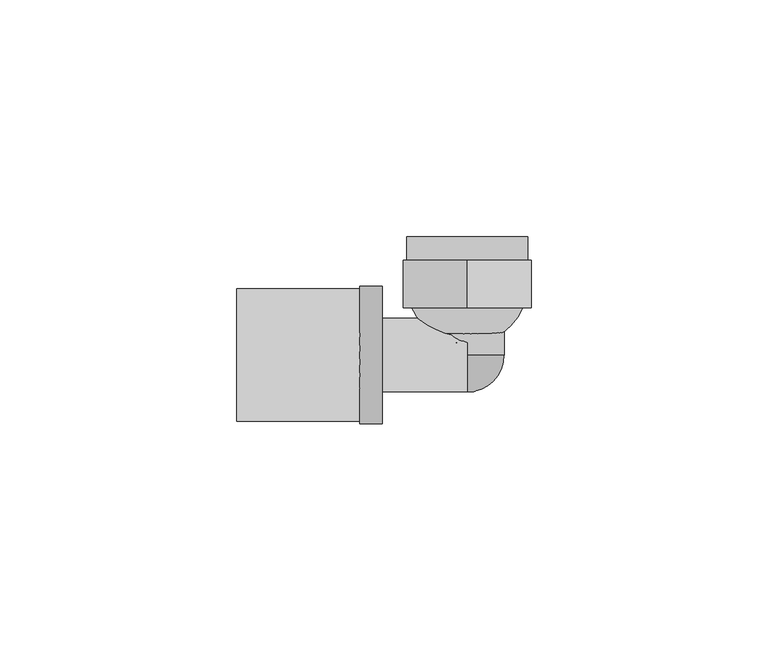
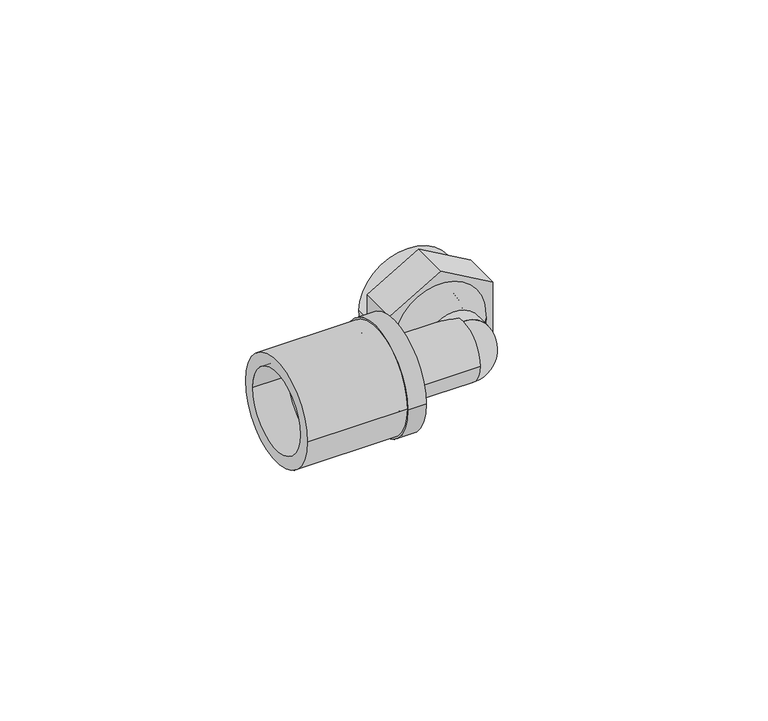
"""IFC4 building model written with IfcOpenShell, lengths in millimetres: pipe fitting geometry, FASTLOC_Elbow with female thread LX : FSL A internal CZ."""

from ifc_helpers import new_model, si_unit, point, frame, origin, origin_2d, place, context, project, spatial, polyline, circle_curve, ellipse_curve, trimmed, segment, composite_curve, outline, extrude, source, transform, mapped, element, save
from ifc_brep_helpers import plane_surface, cylinder_surface, revolved_surface, advanced_brep


def pipe_fitting_b34869ee(model_context):
    return source(origin(), model_context, "Body", "SolidModel", [
        extrude(outline(composite_curve([segment(trimmed(circle_curve(origin_2d(), 14.0), [point((14.0, 0.0))], [point((-14.0, 0.0))], False, "CARTESIAN"), True, "CONTINUOUS"), segment(trimmed(circle_curve(origin_2d(), 14.0), [point((-14.0, 0.0))], [point((14.0, 0.0))], False, "CARTESIAN"), True, "CONTINUOUS")], self_intersect=False), holes=[composite_curve([segment(trimmed(circle_curve(origin_2d(), 10.7), [point((10.7, 0.0))], [point((-10.7, 0.0))], True, "CARTESIAN"), True, "CONTINUOUS"), segment(trimmed(circle_curve(origin_2d(), 10.7), [point((-10.7, 0.0))], [point((10.7, 0.0))], True, "CARTESIAN"), True, "CONTINUOUS")], self_intersect=False)]), frame((-48.7, 0.0, 0.0), z_axis=(1.0, 0.0, 0.0), x_axis=(0.0, 1.0, 0.0)), (0.0, 0.0, 1.0), 26.0),
        advanced_brep(
        [(-22.7, -14.5, 0.0), (-22.7, 14.5, 0.0), (-18.0, 14.5, 0.0), (-18.0, -14.5, 0.0), (-39.7, -11.85, 0.0), (-39.7, 11.85, 0.0), (-22.7, 11.85, 0.0), (-22.7, -11.85, 0.0), (-18.0, -10.15, 0.0), (-18.0, 10.15, 0.0), (-39.7, 10.15, 0.0), (-39.7, -10.15, 0.0)],
        [
            (0, 1, circle_curve(frame((-22.7, 0.0, 0.0), z_axis=(1.0, 0.0, 0.0), x_axis=(0.0, 1.0, 0.0)), 14.5)),
            (1, 2),
            (2, 3, circle_curve(frame((-18.0, 0.0, 0.0), z_axis=(-1.0, 0.0, 0.0), x_axis=(0.0, 1.0, 0.0)), 14.5)),
            (3, 0),
            (4, 5, circle_curve(frame((-39.7, 0.0, 0.0), z_axis=(1.0, 0.0, 0.0), x_axis=(0.0, 1.0, 0.0)), 11.85)),
            (5, 6),
            (6, 7, circle_curve(frame((-22.7, 0.0, 0.0), z_axis=(-1.0, 0.0, 0.0), x_axis=(0.0, 1.0, 0.0)), 11.85)),
            (7, 4),
            (8, 9, circle_curve(frame((-18.0, 0.0, 0.0), z_axis=(1.0, 0.0, 0.0), x_axis=(0.0, 1.0, 0.0)), 10.15)),
            (9, 10),
            (10, 11, circle_curve(frame((-39.7, 0.0, 0.0), z_axis=(-1.0, 0.0, 0.0), x_axis=(0.0, 1.0, 0.0)), 10.15)),
            (11, 8),
            (1, 0, circle_curve(frame((-22.7, 0.0, 0.0), z_axis=(1.0, 0.0, 0.0), x_axis=(0.0, -1.0, 0.0)), 14.5)),
            (3, 2, circle_curve(frame((-18.0, 0.0, 0.0), z_axis=(-1.0, 0.0, 0.0), x_axis=(0.0, -1.0, 0.0)), 14.5)),
            (6, 7, circle_curve(frame((-22.7, 0.0, 0.0), z_axis=(1.0, 0.0, 0.0), x_axis=(0.0, -1.0, 0.0)), 11.85)),
            (5, 4, circle_curve(frame((-39.7, 0.0, 0.0), z_axis=(1.0, 0.0, 0.0), x_axis=(0.0, -1.0, 0.0)), 11.85)),
            (10, 11, circle_curve(frame((-39.7, 0.0, 0.0), z_axis=(1.0, 0.0, 0.0), x_axis=(0.0, -1.0, 0.0)), 10.15)),
            (9, 8, circle_curve(frame((-18.0, 0.0, 0.0), z_axis=(1.0, 0.0, 0.0), x_axis=(0.0, -1.0, 0.0)), 10.15)),
        ],
        [
            cylinder_surface(frame((-18.0, 0.0, 0.0), z_axis=(-1.0, 0.0, 0.0), x_axis=(0.0, 1.0, 0.0)), 14.5),
            cylinder_surface(frame((-18.0, 0.0, 0.0), z_axis=(-1.0, 0.0, 0.0), x_axis=(0.0, 1.0, 0.0)), 11.85),
            revolved_surface(polyline([(-39.7, 10.15, 0.0), (-18.0, 10.15, 0.0)]), (-18.0, 0.0, 0.0), (-1.0, 0.0, 0.0)),
            cylinder_surface(frame((-18.0, 0.0, 0.0), z_axis=(-1.0, 0.0, 0.0), x_axis=(0.0, -1.0, 0.0)), 14.5),
            plane_surface(frame((-22.7, 0.0, 0.0), z_axis=(-1.0, 0.0, 0.0), x_axis=(0.0, -1.0, 0.0))),
            cylinder_surface(frame((-18.0, 0.0, 0.0), z_axis=(-1.0, 0.0, 0.0), x_axis=(0.0, -1.0, 0.0)), 11.85),
            plane_surface(frame((-39.7, 0.0, 0.0), z_axis=(-1.0, 0.0, 0.0), x_axis=(0.0, -1.0, 0.0))),
            revolved_surface(polyline([(-39.7, -10.15, 0.0), (-18.0, -10.15, 0.0)]), (-18.0, 0.0, 0.0), (-1.0, 0.0, 0.0)),
            plane_surface(frame((-18.0, 0.0, 0.0), z_axis=(1.0, 0.0, 0.0), x_axis=(0.0, -1.0, 0.0))),
        ],
        [
            (0, [[1, 2, 3, 4]]),
            (1, [[5, 6, 7, 8]]),
            (2, [[9, 10, 11, 12]]),
            (3, [[13, -4, 14, -2]]),
            (4, [[-13, -1], [15, -7]]),
            (5, [[16, -8, -15, -6]]),
            (6, [[-16, -5], [17, -11]]),
            (7, [[18, -12, -17, -10]]),
            (8, [[-14, -3], [-18, -9]]),
        ],
    ),
        advanced_brep(
        [(0.5, 2.2598077, 0.0), (-0.5, 2.2598077, 0.0), (-12.75, 15.0, 0.0), (12.75, 15.0, 0.0), (0.5, 7.5166852, 0.0), (-0.5, 7.5166852, 0.0), (7.5, 15.0, 0.0), (-7.5, 15.0, 0.0), (7.5, 25.0, 0.0), (-7.5, 25.0, 0.0), (-12.75, 25.0, 0.0), (12.75, 25.0, 0.0)],
        [
            (0, 1, circle_curve(frame((0.0, 2.2598077, 0.0), z_axis=(0.0, 1.0, 0.0), x_axis=(-1.0, 0.0, 0.0)), 0.5)),
            (1, 2, circle_curve(frame((0.0, 15.0, 0.0), z_axis=(0.0, 0.0, -1.0), x_axis=(0.0, 1.0, 0.0)), 12.75)),
            (2, 3, circle_curve(frame((0.0, 15.0, 0.0), z_axis=(0.0, -1.0, 0.0), x_axis=(-1.0, 0.0, 0.0)), 12.75)),
            (3, 0, circle_curve(frame((0.0, 15.0, 0.0), z_axis=(0.0, 0.0, -1.0), x_axis=(0.0, 1.0, 0.0)), 12.75)),
            (4, 5, circle_curve(frame((0.0, 7.5166852, 0.0), z_axis=(0.0, 1.0, 0.0), x_axis=(-1.0, 0.0, 0.0)), 0.5)),
            (5, 1),
            (0, 4),
            (6, 7, circle_curve(frame((0.0, 15.0, 0.0), z_axis=(0.0, 1.0, 0.0), x_axis=(-1.0, 0.0, 0.0)), 7.5)),
            (7, 5, circle_curve(frame((0.0, 15.0, 0.0), z_axis=(0.0, 0.0, 1.0), x_axis=(0.0, 1.0, 0.0)), 7.5)),
            (4, 6, circle_curve(frame((0.0, 15.0, 0.0), z_axis=(0.0, 0.0, 1.0), x_axis=(0.0, 1.0, 0.0)), 7.5)),
            (8, 9, circle_curve(frame((0.0, 25.0, 0.0), z_axis=(0.0, 1.0, 0.0), x_axis=(-1.0, 0.0, 0.0)), 7.5)),
            (9, 7),
            (6, 8),
            (2, 10),
            (10, 11, circle_curve(frame((0.0, 25.0, 0.0), z_axis=(0.0, -1.0, 0.0), x_axis=(-1.0, 0.0, 0.0)), 12.75)),
            (11, 3),
            (1, 0, circle_curve(frame((0.0, 2.2598077, 0.0), z_axis=(0.0, 1.0, 0.0), x_axis=(1.0, 0.0, 0.0)), 0.5)),
            (3, 2, circle_curve(frame((0.0, 15.0, 0.0), z_axis=(0.0, -1.0, 0.0), x_axis=(1.0, 0.0, 0.0)), 12.75)),
            (5, 4, circle_curve(frame((0.0, 7.5166852, 0.0), z_axis=(0.0, 1.0, 0.0), x_axis=(1.0, 0.0, 0.0)), 0.5)),
            (7, 6, circle_curve(frame((0.0, 15.0, 0.0), z_axis=(0.0, 1.0, 0.0), x_axis=(1.0, 0.0, 0.0)), 7.5)),
            (9, 8, circle_curve(frame((0.0, 25.0, 0.0), z_axis=(0.0, 1.0, 0.0), x_axis=(1.0, 0.0, 0.0)), 7.5)),
            (10, 11, circle_curve(frame((0.0, 25.0, 0.0), z_axis=(0.0, 1.0, 0.0), x_axis=(1.0, 0.0, 0.0)), 12.75)),
        ],
        [
            revolved_surface(trimmed(ellipse_curve(frame((0.0, 15.0, 0.0), z_axis=(0.0, 0.0, 1.0), x_axis=(0.0, 1.0, 0.0)), 12.75, 12.75), [point((-12.75, 15.0, 0.0))], [point((-0.5, 2.2598077, 0.0))], True, "CARTESIAN"), (0.0, 10.0, 0.0), (0.0, -1.0, 0.0)),
            revolved_surface(polyline([(-0.5, 2.2598076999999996, 0.0), (-0.5, 7.5166852, 0.0)]), (0.0, 10.0, 0.0), (0.0, -1.0, 0.0)),
            revolved_surface(trimmed(ellipse_curve(frame((0.0, 15.0, 0.0), z_axis=(0.0, 0.0, -1.0), x_axis=(0.0, 1.0, 0.0)), 7.5, 7.5), [point((-0.5, 7.5166852, 0.0))], [point((-7.5, 15.0, 0.0))], True, "CARTESIAN"), (0.0, 10.0, 0.0), (0.0, -1.0, 0.0)),
            revolved_surface(polyline([(-7.5, 15.0, 0.0), (-7.5, 25.0, 0.0)]), (0.0, 10.0, 0.0), (0.0, -1.0, 0.0)),
            cylinder_surface(frame((0.0, 10.0, 0.0), z_axis=(0.0, -1.0, 0.0), x_axis=(-1.0, 0.0, 0.0)), 12.75),
            revolved_surface(trimmed(ellipse_curve(frame((0.0, 15.0, 0.0), z_axis=(0.0, 0.0, -1.0), x_axis=(0.0, 1.0, 0.0)), 12.75, 12.75), [point((12.75, 15.0, 0.0))], [point((0.5, 2.2598077, 0.0))], True, "CARTESIAN"), (0.0, 10.0, 0.0), (0.0, -1.0, 0.0)),
            revolved_surface(polyline([(0.5, 2.2598076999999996, 0.0), (0.5, 7.5166852, 0.0)]), (0.0, 10.0, 0.0), (0.0, -1.0, 0.0)),
            revolved_surface(trimmed(ellipse_curve(frame((0.0, 15.0, 0.0), z_axis=(0.0, 0.0, 1.0), x_axis=(0.0, 1.0, 0.0)), 7.5, 7.5), [point((0.5, 7.5166852, 0.0))], [point((7.5, 15.0, 0.0))], True, "CARTESIAN"), (0.0, 10.0, 0.0), (0.0, -1.0, 0.0)),
            revolved_surface(polyline([(7.5, 15.0, 0.0), (7.5, 25.0, 0.0)]), (0.0, 10.0, 0.0), (0.0, -1.0, 0.0)),
            plane_surface(frame((0.0, 25.0, 0.0), z_axis=(0.0, 1.0, 0.0), x_axis=(1.0, 0.0, 0.0))),
            cylinder_surface(frame((0.0, 10.0, 0.0), z_axis=(0.0, -1.0, 0.0), x_axis=(1.0, 0.0, 0.0)), 12.75),
        ],
        [
            (0, [[1, 2, 3, 4]]),
            (1, [[5, 6, -1, 7]]),
            (2, [[8, 9, -5, 10]]),
            (3, [[11, 12, -8, 13]]),
            (4, [[-3, 14, 15, 16]]),
            (5, [[17, -4, 18, -2]]),
            (6, [[19, -7, -17, -6]]),
            (7, [[20, -10, -19, -9]]),
            (8, [[21, -13, -20, -12]]),
            (9, [[22, -15], [-21, -11]]),
            (10, [[-18, -16, -22, -14]]),
        ],
    ),
        advanced_brep(
        [(-22.7, 7.75, 0.0), (-22.7, -7.75, 0.0), (-40.1, -7.75, 0.0), (-40.1, 7.75, 0.0), (-20.0, 8.8, 0.0), (-20.0, -8.8, 0.0), (-22.7, -8.8, 0.0), (-22.7, 8.8, 0.0), (0.0, 7.75, 0.0), (0.0, -7.75, 0.0), (-20.0, -7.75, 0.0), (-20.0, 7.75, 0.0), (-40.1, 5.75, 0.0), (-40.1, -5.75, 0.0), (0.0, -5.75, 0.0), (0.0, 5.75, 0.0)],
        [
            (0, 1, circle_curve(frame((-22.7, 0.0, 0.0), z_axis=(-1.0, 0.0, 0.0), x_axis=(0.0, -1.0, 0.0)), 7.75)),
            (1, 2),
            (2, 3, circle_curve(frame((-40.1, 0.0, 0.0), z_axis=(1.0, 0.0, 0.0), x_axis=(0.0, -1.0, 0.0)), 7.75)),
            (3, 0),
            (4, 5, circle_curve(frame((-20.0, 0.0, 0.0), z_axis=(-1.0, 0.0, 0.0), x_axis=(0.0, -1.0, 0.0)), 8.8)),
            (5, 6),
            (6, 7, circle_curve(frame((-22.7, 0.0, 0.0), z_axis=(1.0, 0.0, 0.0), x_axis=(0.0, -1.0, 0.0)), 8.8)),
            (7, 4),
            (8, 9, circle_curve(frame((0.0, 0.0, 0.0), z_axis=(-1.0, 0.0, 0.0), x_axis=(0.0, -1.0, 0.0)), 7.75)),
            (9, 10),
            (10, 11, circle_curve(frame((-20.0, 0.0, 0.0), z_axis=(1.0, 0.0, 0.0), x_axis=(0.0, -1.0, 0.0)), 7.75)),
            (11, 8),
            (12, 13, circle_curve(frame((-40.1, 0.0, 0.0), z_axis=(-1.0, 0.0, 0.0), x_axis=(0.0, -1.0, 0.0)), 5.75)),
            (13, 14),
            (14, 15, circle_curve(frame((0.0, 0.0, 0.0), z_axis=(1.0, 0.0, 0.0), x_axis=(0.0, -1.0, 0.0)), 5.75)),
            (15, 12),
            (2, 3, circle_curve(frame((-40.1, 0.0, 0.0), z_axis=(-1.0, 0.0, 0.0), x_axis=(0.0, 1.0, 0.0)), 7.75)),
            (12, 13, circle_curve(frame((-40.1, 0.0, 0.0), z_axis=(1.0, 0.0, 0.0), x_axis=(0.0, 1.0, 0.0)), 5.75)),
            (1, 0, circle_curve(frame((-22.7, 0.0, 0.0), z_axis=(-1.0, 0.0, 0.0), x_axis=(0.0, 1.0, 0.0)), 7.75)),
            (6, 7, circle_curve(frame((-22.7, 0.0, 0.0), z_axis=(-1.0, 0.0, 0.0), x_axis=(0.0, 1.0, 0.0)), 8.8)),
            (5, 4, circle_curve(frame((-20.0, 0.0, 0.0), z_axis=(-1.0, 0.0, 0.0), x_axis=(0.0, 1.0, 0.0)), 8.8)),
            (10, 11, circle_curve(frame((-20.0, 0.0, 0.0), z_axis=(-1.0, 0.0, 0.0), x_axis=(0.0, 1.0, 0.0)), 7.75)),
            (9, 8, circle_curve(frame((0.0, 0.0, 0.0), z_axis=(-1.0, 0.0, 0.0), x_axis=(0.0, 1.0, 0.0)), 7.75)),
            (14, 15, circle_curve(frame((0.0, 0.0, 0.0), z_axis=(-1.0, 0.0, 0.0), x_axis=(0.0, 1.0, 0.0)), 5.75)),
        ],
        [
            cylinder_surface(frame((0.0, 0.0, 0.0), z_axis=(1.0, 0.0, 0.0), x_axis=(0.0, -1.0, 0.0)), 7.75),
            cylinder_surface(frame((0.0, 0.0, 0.0), z_axis=(1.0, 0.0, 0.0), x_axis=(0.0, -1.0, 0.0)), 8.8),
            revolved_surface(polyline([(0.0, -5.75, 0.0), (-40.1, -5.75, 0.0)]), (0.0, 0.0, 0.0), (1.0, 0.0, 0.0)),
            plane_surface(frame((-40.1, 0.0, 0.0), z_axis=(-1.0, 0.0, 0.0), x_axis=(0.0, 1.0, 0.0))),
            cylinder_surface(frame((0.0, 0.0, 0.0), z_axis=(1.0, 0.0, 0.0), x_axis=(0.0, 1.0, 0.0)), 7.75),
            plane_surface(frame((-22.7, 0.0, 0.0), z_axis=(-1.0, 0.0, 0.0), x_axis=(0.0, 1.0, 0.0))),
            cylinder_surface(frame((0.0, 0.0, 0.0), z_axis=(1.0, 0.0, 0.0), x_axis=(0.0, 1.0, 0.0)), 8.8),
            plane_surface(frame((-20.0, 0.0, 0.0), z_axis=(1.0, 0.0, 0.0), x_axis=(0.0, 1.0, 0.0))),
            plane_surface(frame((0.0, 0.0, 0.0), z_axis=(1.0, 0.0, 0.0), x_axis=(0.0, 1.0, 0.0))),
            revolved_surface(polyline([(0.0, 5.75, 0.0), (-40.1, 5.75, 0.0)]), (0.0, 0.0, 0.0), (1.0, 0.0, 0.0)),
        ],
        [
            (0, [[1, 2, 3, 4]]),
            (1, [[5, 6, 7, 8]]),
            (0, [[9, 10, 11, 12]]),
            (2, [[13, 14, 15, 16]]),
            (3, [[17, -3], [18, -13]]),
            (4, [[19, -4, -17, -2]]),
            (5, [[20, -7], [-19, -1]]),
            (6, [[21, -8, -20, -6]]),
            (7, [[-21, -5], [22, -11]]),
            (4, [[23, -12, -22, -10]]),
            (8, [[-23, -9], [24, -15]]),
            (9, [[-18, -16, -24, -14]]),
        ],
    ),
        advanced_brep(
        [(0.0, 0.0, 7.75), (0.0, 0.0, 3.875), (0.0, -3.875, 0.0), (0.0, -7.75, 0.0), (0.0, 0.0, -7.75), (0.0, 0.0, -3.875)],
        [
            (0, 1),
            (1, 2, circle_curve(frame((0.0, 0.0, 0.0), z_axis=(1.0, 0.0, 0.0), x_axis=(0.0, 0.0, 1.0)), 3.875)),
            (2, 3),
            (3, 0, circle_curve(frame((0.0, 0.0, 0.0), z_axis=(-1.0, 0.0, 0.0), x_axis=(0.0, 0.0, 1.0)), 7.75)),
            (4, 3, circle_curve(frame((0.0, 0.0, 0.0), z_axis=(-1.0, 0.0, 0.0), x_axis=(0.0, 0.0, -1.0)), 7.75)),
            (2, 5, circle_curve(frame((0.0, 0.0, 0.0), z_axis=(1.0, 0.0, 0.0), x_axis=(0.0, 0.0, -1.0)), 3.875)),
            (5, 4),
            (5, 1, circle_curve(frame((0.0, 0.0, 0.0), z_axis=(0.0, -1.0, 0.0), x_axis=(0.0, 0.0, 1.0)), 3.875)),
            (0, 4, circle_curve(frame((0.0, 0.0, 0.0), z_axis=(0.0, 1.0, 0.0), x_axis=(0.0, 0.0, 1.0)), 7.75)),
        ],
        [
            plane_surface(frame((0.0, 0.0, 0.0), z_axis=(-1.0, 0.0, 0.0), x_axis=(0.0, 0.0, 1.0))),
            plane_surface(frame((0.0, 0.0, 0.0), z_axis=(-1.0, 0.0, 0.0), x_axis=(0.0, 0.0, -1.0))),
            plane_surface(frame((0.0, 0.0, 0.0), z_axis=(0.0, 1.0, 0.0), x_axis=(0.0, 0.0, 1.0))),
            revolved_surface(trimmed(ellipse_curve(frame((0.0, 0.0, 0.0), z_axis=(1.0, 0.0, 0.0), x_axis=(0.0, 0.0, 1.0)), 3.875, 3.875), [point((0.0, 0.0, 3.875))], [point((0.0, -3.875, 0.0))], True, "CARTESIAN"), (0.0, 0.0, 0.0), (0.0, 1.0, 0.0)),
            revolved_surface(trimmed(ellipse_curve(frame((0.0, 0.0, 0.0), z_axis=(-1.0, 0.0, 0.0), x_axis=(0.0, 0.0, 1.0)), 7.75, 7.75), [point((0.0, -7.75, 0.0))], [point((0.0, 0.0, 7.75))], True, "CARTESIAN"), (0.0, 0.0, 0.0), (0.0, 1.0, 0.0)),
        ],
        [
            (0, [[1, 2, 3, 4]]),
            (1, [[5, -3, 6, 7]]),
            (2, [[8, -1, 9, -7]]),
            (3, [[-2, -8, -6]]),
            (4, [[-9, -4, -5]]),
        ],
    ),
        extrude(outline(polyline([(-7.7942286, 13.5), (7.7942286, 13.5), (15.5884573, 0.0), (7.7942286, -13.5), (-7.7942286, -13.5), (-15.5884573, 0.0), (-7.7942286, 13.5)])), frame((0.0, 10.0, 0.0), z_axis=(0.0, 1.0, 0.0), x_axis=(0.0, 0.0, 1.0)), (0.0, 0.0, 1.0), 10.0),
        extrude(outline(composite_curve([segment(trimmed(circle_curve(origin_2d(), 7.75), [point((0.0, -7.75))], [point((0.0, 7.75))], False, "CARTESIAN"), True, "CONTINUOUS"), segment(trimmed(circle_curve(origin_2d(), 7.75), [point((0.0, 7.75))], [point((0.0, -7.75))], False, "CARTESIAN"), True, "CONTINUOUS")], self_intersect=False), holes=[composite_curve([segment(trimmed(circle_curve(origin_2d(), 5.75), [point((0.0, -5.75))], [point((0.0, 5.75))], True, "CARTESIAN"), True, "CONTINUOUS"), segment(trimmed(circle_curve(origin_2d(), 5.75), [point((0.0, 5.75))], [point((0.0, -5.75))], True, "CARTESIAN"), True, "CONTINUOUS")], self_intersect=False)]), frame((0.0, 0.0, 0.0), z_axis=(0.0, 1.0, 0.0), x_axis=(0.0, 0.0, 1.0)), (0.0, 0.0, 1.0), 10.0),
    ])


if __name__ == "__main__":
    model = new_model("IFC4")
    model_context = context("Model", 3, world=origin())
    ifc_project = project(units=[si_unit("LENGTHUNIT", "METRE", prefix="MILLI")], contexts=[model_context])
    site = spatial("IfcSite", under=ifc_project)
    building = spatial("IfcBuilding", under=site)
    placement = place(None, origin())
    pipe_fitting_shape = pipe_fitting_b34869ee(model_context)
    element("IfcPipeFitting", 1, ObjectType="FASTLOC_Elbow with female thread LX : FSL A internal CZ", at=placement, inside=building, context=model_context, shape_type="MappedRepresentation", body=[
        mapped(pipe_fitting_shape, transform((0.0, 0.0, 0.0), x_axis=(1.0, 0.0, 0.0), y_axis=(0.0, 1.0, 0.0), z_axis=(0.0, 0.0, 1.0))),
    ])
    save(model, "model.ifc")
